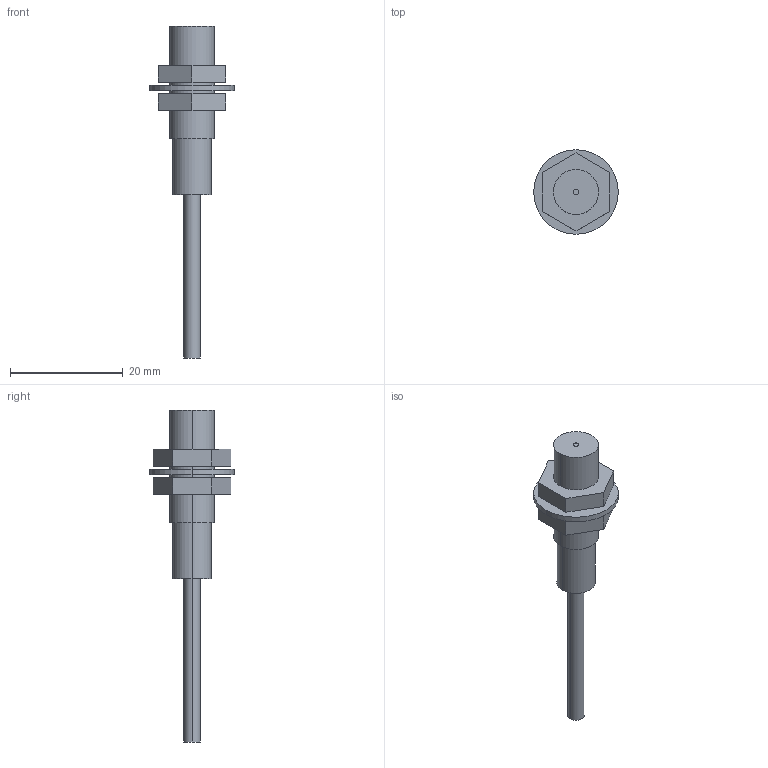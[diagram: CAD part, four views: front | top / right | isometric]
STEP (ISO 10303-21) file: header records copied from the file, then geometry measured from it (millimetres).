
FILE_DESCRIPTION (( 'STEP AP203' ), '1' );
FILE_NAME ('GX-8MU.STEP', '2005-11-09T07:28:59', ( '' ), ( '' ), 'SwSTEP 2.0', 'SolidWorks 2004073', '' );
FILE_SCHEMA (( 'CONFIG_CONTROL_DESIGN' ));
Length unit declared in the file: millimetre
Products named in the file (1): GX-8MU
Bounding box: 15 x 15 x 59 mm (x, y, z)
Volume: 2133 mm3; surface area: 2104.8 mm2
Topology: 4 solids, 4 shells, 42 faces, 90 edges, 60 vertices
Faces by surface type: plane 24, cylinder 18
Entity records: 1233 total; most frequent: DIRECTION 212, CARTESIAN_POINT 193, ORIENTED_EDGE 180, EDGE_CURVE 90, AXIS2_PLACEMENT_3D 79, VERTEX_POINT 60, VECTOR 54, LINE 54
